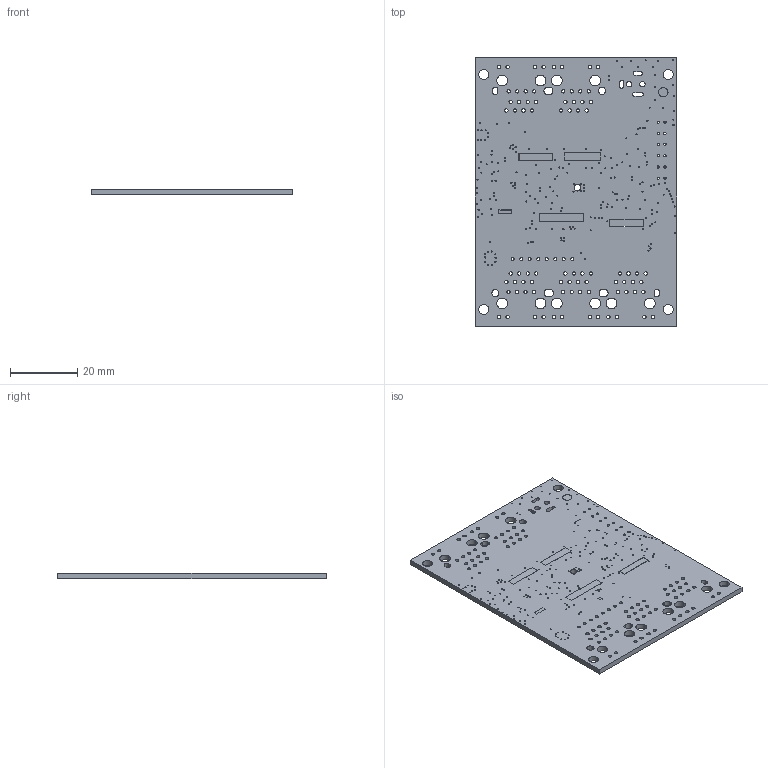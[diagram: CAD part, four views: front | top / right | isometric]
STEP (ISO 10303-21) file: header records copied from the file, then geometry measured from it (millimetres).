
FILE_DESCRIPTION( ('This file contains a STEP AP42 implementation' ,'as created by ZW3D STEP Interface translator.' ,'') ,'2;1' );
FILE_NAME( 'LX-SWF505-1.step' ,'24 712.121543', (''), ('ZWCAD Software Co.'), 'Version 1.0', 'ZW3D to STEP translator', '' );
FILE_SCHEMA(('AUTOMOTIVE_DESIGN { 1 0 10303 214 1 1 1 1 }'));
Length unit declared in the file: millimetre
Products named in the file (1): 0
Bounding box: 59.97 x 79.97 x 1.6 mm (x, y, z)
Volume: 7281.8 mm3; surface area: 11151.8 mm2
Topology: 7 solids, 7 shells, 840 faces, 2478 edges, 1652 vertices
Faces by surface type: cylinder 746, plane 94
Entity records: 31229 total; most frequent: DIRECTION 5652, CARTESIAN_POINT 4971, ORIENTED_EDGE 4956, EDGE_CURVE 2478, AXIS2_PLACEMENT_3D 2333, VERTEX_POINT 1652, EDGE_LOOP 1560, CIRCLE 1492
